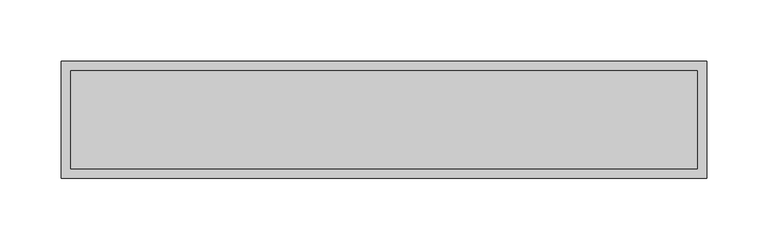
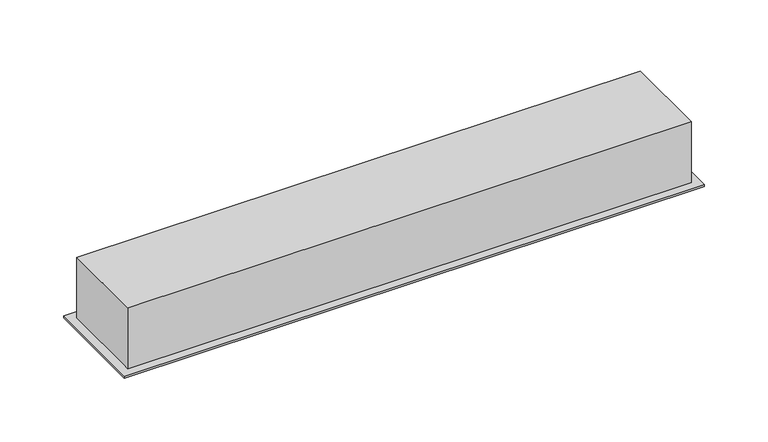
"""IFC4 building model written with IfcOpenShell, lengths in millimetres: light fixture geometry, GENILED_Светильник светодиодный_Trade Linear Standart Встраиваемый : Встраиваемый Trade Linear Standart 490x65x60 20Вт 90Ra Deep Опал Черный."""

from ifc_helpers import new_model, si_unit, origin, place, context, project, spatial, faceted_brep, source, transform, mapped, element, save


def light_fixture_8643cc04(model_context):
    return source(origin(), model_context, "Body", "Brep", [
        faceted_brep([(255.0, 40.0, 60.0), (-255.0, 40.0, 60.0), (-255.0, -40.0, 60.0), (255.0, -40.0, 60.0), (262.5, 47.5, 0.0), (262.5, -47.5, 0.0), (-262.5, -47.5, 0.0), (-262.5, 47.5, 0.0), (255.0, 40.0, 2.0), (-255.0, 40.0, 2.0), (-255.0, 32.5, 2.0), (-255.0, -32.5, 2.0), (-255.0, -40.0, 2.0), (255.0, -40.0, 2.0), (255.0, -32.5, 2.0), (255.0, 32.5, 2.0), (262.5, 47.5, 2.0), (-262.5, 47.5, 2.0), (-262.5, -47.5, 2.0), (262.5, -47.5, 2.0)], [[[0, 1, 2, 3]], [[4, 5, 6, 7]], [[1, 0, 8, 9]], [[2, 1, 9, 10, 11, 12]], [[3, 2, 12, 13]], [[0, 3, 13, 14, 15, 8]], [[16, 17, 18, 19], [9, 8, 15, 14, 13, 12, 11, 10]], [[17, 16, 4, 7]], [[18, 17, 7, 6]], [[19, 18, 6, 5]], [[16, 19, 5, 4]]]),
    ])


if __name__ == "__main__":
    model = new_model("IFC4")
    model_context = context("Model", 3, world=origin())
    ifc_project = project(units=[si_unit("LENGTHUNIT", "METRE", prefix="MILLI")], contexts=[model_context])
    site = spatial("IfcSite", under=ifc_project)
    building = spatial("IfcBuilding", under=site)
    placement = place(None, origin())
    light_fixture_shape = light_fixture_8643cc04(model_context)
    element("IfcLightFixture", 1, ObjectType="GENILED_Светильник светодиодный_Trade Linear Standart Встраиваемый : Встраиваемый Trade Linear Standart 490x65x60 20Вт 90Ra Deep Опал Черный", at=placement, inside=building, context=model_context, shape_type="MappedRepresentation", body=[
        mapped(light_fixture_shape, transform((0.0, 0.0, 0.0), x_axis=(1.0, 0.0, 0.0), y_axis=(0.0, 1.0, 0.0), z_axis=(0.0, 0.0, 1.0))),
    ])
    save(model, "model.ifc")
